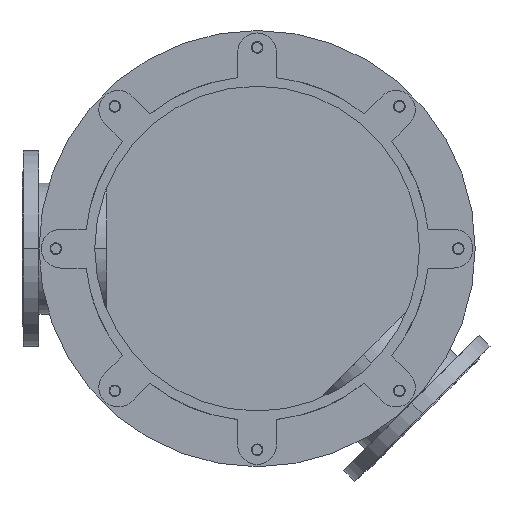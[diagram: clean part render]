
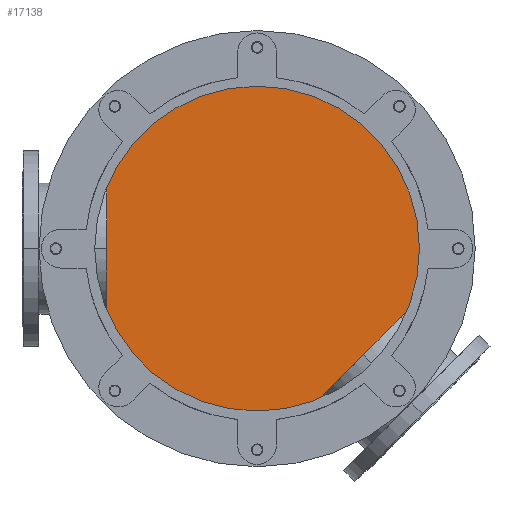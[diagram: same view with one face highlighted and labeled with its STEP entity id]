
A CAD part, front view. The second image highlights one B-rep face of the part: STEP entity #17138.
In plain terms, the highlighted planar face has unit normal (0, -1, 0).
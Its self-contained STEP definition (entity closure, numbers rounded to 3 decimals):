
#5062=CARTESIAN_POINT('',(0.,951.,0.));
#5063=DIRECTION('',(0.,-1.,0.));
#5064=DIRECTION('',(0.,0.,1.));
#5065=AXIS2_PLACEMENT_3D('',#5062,#5063,#5064);
#5197=CARTESIAN_POINT('',(0.,951.,0.));
#5198=DIRECTION('',(0.,-1.,0.));
#5199=DIRECTION('',(0.,0.,-1.));
#5200=AXIS2_PLACEMENT_3D('',#5197,#5198,#5199);
#9235=CARTESIAN_POINT('',(0.,951.,350.));
#9236=CARTESIAN_POINT('',(0.,951.,-350.));
#9237=VERTEX_POINT('',#9235);
#9238=VERTEX_POINT('',#9236);
#17128=CARTESIAN_POINT('',(0.,951.,0.));
#17129=DIRECTION('',(0.,1.,0.));
#17130=DIRECTION('',(0.,0.,-1.));
#17131=AXIS2_PLACEMENT_3D('',#17128,#17129,#17130);
#17132=PLANE('',#17131);
#17133=ORIENTED_EDGE('',*,*,#17112,.F.);
#17135=ORIENTED_EDGE('',*,*,#17134,.F.);
#17136=EDGE_LOOP('',(#17133,#17135));
#17137=FACE_OUTER_BOUND('',#17136,.F.);
#17138=ADVANCED_FACE('',(#17137),#17132,.F.);
#5066=CIRCLE('',#5065,350.);
#5201=CIRCLE('',#5200,350.);
#17112=EDGE_CURVE('',#9237,#9238,#5066,.T.);
#17134=EDGE_CURVE('',#9238,#9237,#5201,.T.);
